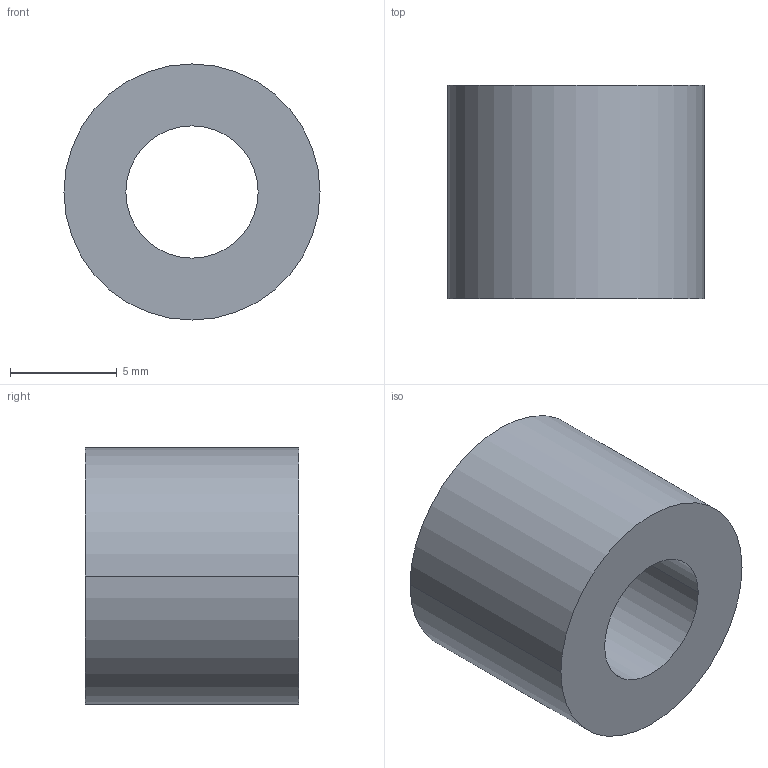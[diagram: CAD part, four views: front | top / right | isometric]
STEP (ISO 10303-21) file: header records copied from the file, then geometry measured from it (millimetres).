
FILE_DESCRIPTION (( 'STEP AP203' ), '1' );
FILE_NAME ('30800.WPP12D6.2.step', '2019-01-23T22:25:00', ( '' ), ( '' ), 'SwSTEP 2.0', 'SolidWorks 2017', '' );
FILE_SCHEMA (( 'CONFIG_CONTROL_DESIGN' ));
Length unit declared in the file: millimetre
Products named in the file (1): 30800.WPP12D6.2
Bounding box: 12 x 10 x 12 mm (x, y, z)
Volume: 818.6 mm3; surface area: 726 mm2
Topology: 1 solids, 1 shells, 8 faces, 16 edges, 10 vertices
Faces by surface type: cylinder 4, torus 2, plane 2
Entity records: 297 total; most frequent: DIRECTION 46, CARTESIAN_POINT 35, ORIENTED_EDGE 32, AXIS2_PLACEMENT_3D 21, EDGE_CURVE 16, CIRCLE 12, VERTEX_POINT 10, EDGE_LOOP 10
